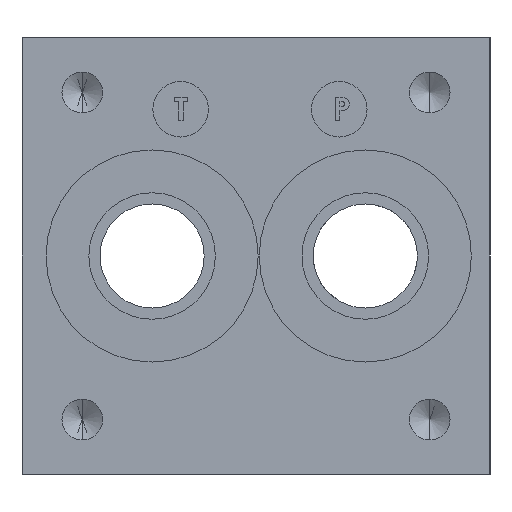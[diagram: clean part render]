
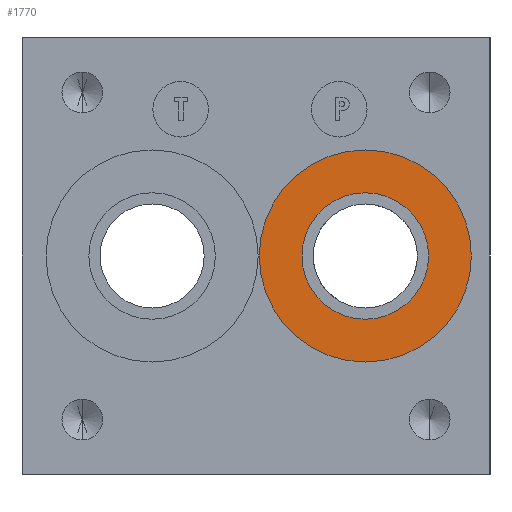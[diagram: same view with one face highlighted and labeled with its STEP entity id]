
A CAD part, left-side view. The second image highlights one B-rep face of the part: STEP entity #1770.
In plain terms, the highlighted planar face has unit normal (-1, 0, 0).
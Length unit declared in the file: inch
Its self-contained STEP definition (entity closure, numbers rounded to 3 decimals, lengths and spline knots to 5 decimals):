
#69 = CIRCLE ( 'NONE', #9515, 0.6684 ) ;
#70 = DIRECTION ( 'NONE',  ( -1., 0., 0. ) ) ;
#359 = DIRECTION ( 'NONE',  ( 0., 0., 1. ) ) ;
#826 = VERTEX_POINT ( 'NONE', #3642 ) ;
#1770 = ADVANCED_FACE ( 'NONE', ( #11285, #6332 ), #7510, .F. ) ;
#2153 = CIRCLE ( 'NONE', #10173, 0.39885 ) ;
#2306 = CARTESIAN_POINT ( 'NONE',  ( 0.031, 0.786, 1.77385 ) ) ;
#2341 = AXIS2_PLACEMENT_3D ( 'NONE', #8186, #7354, #7243 ) ;
#3642 = CARTESIAN_POINT ( 'NONE',  ( 0.031, 0.786, 0.97615 ) ) ;
#3772 = CIRCLE ( 'NONE', #9665, 0.39885 ) ;
#3958 = DIRECTION ( 'NONE',  ( 0., 0., 1. ) ) ;
#4134 = DIRECTION ( 'NONE',  ( -1., 0., 0. ) ) ;
#4297 = CARTESIAN_POINT ( 'NONE',  ( 0.031, 0.786, 2.0434 ) ) ;
#4325 = CARTESIAN_POINT ( 'NONE',  ( 0.031, 0.786, 1.375 ) ) ;
#5969 = VERTEX_POINT ( 'NONE', #4297 ) ;
#6184 = CARTESIAN_POINT ( 'NONE',  ( 0.031, 0.786, 1.375 ) ) ;
#6332 = FACE_OUTER_BOUND ( 'NONE', #6511, .T. ) ;
#6351 = DIRECTION ( 'NONE',  ( 0., 0., 1. ) ) ;
#6511 = EDGE_LOOP ( 'NONE', ( #6916, #11831 ) ) ;
#6610 = ORIENTED_EDGE ( 'NONE', *, *, #10078, .F. ) ;
#6916 = ORIENTED_EDGE ( 'NONE', *, *, #10095, .T. ) ;
#6935 = CARTESIAN_POINT ( 'NONE',  ( 0.031, 0.786, 1.375 ) ) ;
#6943 = DIRECTION ( 'NONE',  ( -1., 0., 0. ) ) ;
#7170 = DIRECTION ( 'NONE',  ( 0., 0., 1. ) ) ;
#7243 = DIRECTION ( 'NONE',  ( 0., 0., -1. ) ) ;
#7354 = DIRECTION ( 'NONE',  ( 1., 0., 0. ) ) ;
#7510 = PLANE ( 'NONE',  #2341 ) ;
#7585 = VERTEX_POINT ( 'NONE', #2306 ) ;
#7889 = EDGE_CURVE ( 'NONE', #826, #7585, #3772, .T. ) ;
#7922 = EDGE_CURVE ( 'NONE', #10560, #5969, #69, .T. ) ;
#8173 = EDGE_LOOP ( 'NONE', ( #6610, #10591 ) ) ;
#8186 = CARTESIAN_POINT ( 'NONE',  ( 0.031, 0.786, 1.375 ) ) ;
#9515 = AXIS2_PLACEMENT_3D ( 'NONE', #4325, #4134, #3958 ) ;
#9665 = AXIS2_PLACEMENT_3D ( 'NONE', #6935, #6943, #6351 ) ;
#9891 = CARTESIAN_POINT ( 'NONE',  ( 0.031, 0.786, 0.7066 ) ) ;
#10053 = CARTESIAN_POINT ( 'NONE',  ( 0.031, 0.786, 1.375 ) ) ;
#10078 = EDGE_CURVE ( 'NONE', #7585, #826, #2153, .T. ) ;
#10095 = EDGE_CURVE ( 'NONE', #5969, #10560, #11984, .T. ) ;
#10173 = AXIS2_PLACEMENT_3D ( 'NONE', #10053, #12381, #359 ) ;
#10243 = AXIS2_PLACEMENT_3D ( 'NONE', #6184, #70, #7170 ) ;
#10560 = VERTEX_POINT ( 'NONE', #9891 ) ;
#10591 = ORIENTED_EDGE ( 'NONE', *, *, #7889, .F. ) ;
#11285 = FACE_BOUND ( 'NONE', #8173, .T. ) ;
#11831 = ORIENTED_EDGE ( 'NONE', *, *, #7922, .T. ) ;
#11984 = CIRCLE ( 'NONE', #10243, 0.6684 ) ;
#12381 = DIRECTION ( 'NONE',  ( -1., 0., 0. ) ) ;
